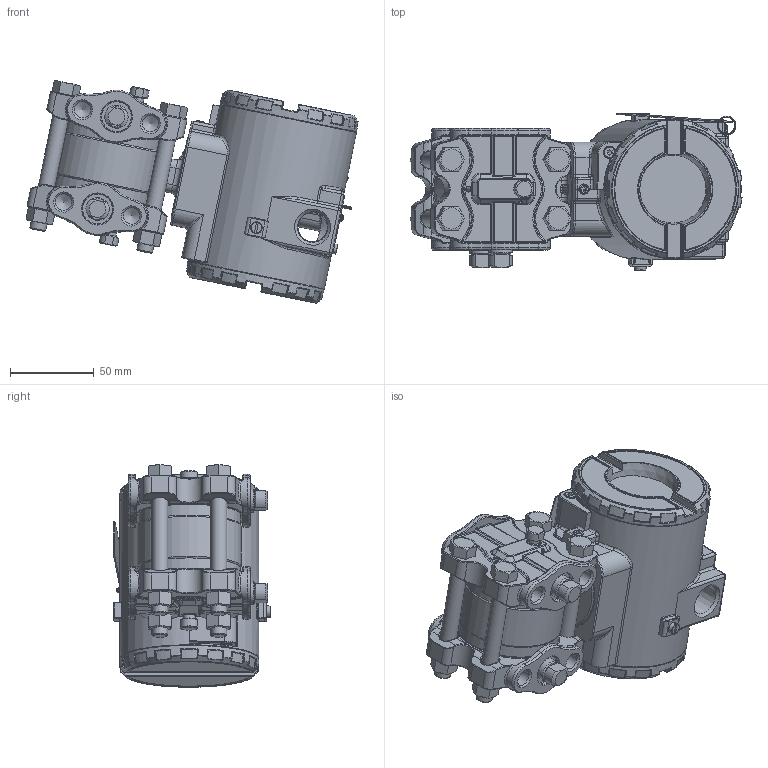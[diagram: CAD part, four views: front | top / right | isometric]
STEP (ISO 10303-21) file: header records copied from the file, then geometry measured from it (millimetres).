
FILE_DESCRIPTION(/* description */ (''),/* implementation_level */ '2;1');
FILE_NAME(/* name */ 'F:\Area\Desenvolvimento_2\Projects\Sensor\projetos\LD30X\montagens 3d - clientes\LD30XH5 1-4NPT purga acima.stp',/* time_stamp */ '2023-01-27T09:42:13-03:00',/* author */ ('inventor02'),/* organization */ (''),/* preprocessor_version */ 'ST-DEVELOPER v17',/* originating_system */ 'Autodesk Inventor 2019',/* authorisation */ '');
FILE_SCHEMA (('CONFIG_CONTROL_DESIGN'));
Length unit declared in the file: millimetre
Products named in the file (29): LD30XH5 1-4NPT purga acima; diferencial FX5 sem adaptador purga acima; involucro fx4 apos a usinagem final; Sangria; bujao 1-4NPT; flange diferencial std purga; Paraf. 3-8 x 16 UNC; Porca 3-8 x 16 UNC; carcaça vazia com tampas e plaqueta; carcaça LD inox sem letras; Subconjunto plaqueta 300; Plaqueta transmissor; Parafuso da Plaqueta; Rebite da Plaqueta; 096-A-0169-03; 101-A-0502-01; Chapa aterramento externo; ISO 1207 - M4 x 8; DIN 915 - M6 x 10; ANSI B18.3.1M - M4x0,7 x 8; Subconjunto tampa com visor aluminio; tampa pintada; VIDRO DO VISOR; oring 41x1 vidro tampa; Trava do vidro da tampa com visor; trava do vidro VH256; Subconjunto tampa sem visor-aluminio; tampa cega 300 pintada p0; 00034775-0
Assembly tree (39 placements, depth 4):
  LD30XH5 1-4NPT purga acima
    diferencial FX5 sem adaptador purga acima
      involucro fx4 apos a usinagem final
      flange diferencial std purga  x2
      bujao 1-4NPT  x2
      Sangria  x2
      Paraf. 3-8 x 16 UNC  x4
      Porca 3-8 x 16 UNC  x4
    carcaça vazia com tampas e plaqueta
      carcaça LD inox sem letras
      Subconjunto plaqueta 300
        Plaqueta transmissor
        Parafuso da Plaqueta
        Rebite da Plaqueta
        096-A-0169-03
        101-A-0502-01
      Chapa aterramento externo
      ISO 1207 - M4 x 8
      DIN 915 - M6 x 10
      ANSI B18.3.1M - M4x0,7 x 8  x2
      Subconjunto tampa com visor aluminio
        tampa pintada
        VIDRO DO VISOR
        oring 41x1 vidro tampa
        Trava do vidro da tampa com visor
        trava do vidro VH256
        00034775-0
      Subconjunto tampa sem visor-aluminio
        tampa cega 300 pintada p0
        00034775-0
Bounding box: 197.78 x 93.95 x 132.51 mm (x, y, z)
Volume: 587994 mm3; surface area: 231846.7 mm2
Topology: 34 solids, 34 shells, 2594 faces, 6213 edges, 3649 vertices
Faces by surface type: bspline 673, cylinder 631, plane 496, torus 436, cone 237, sphere 121
Full cylindrical faces by diameter (mm): 2 x4, 2.1 x2, 2.459 x5, 2.642 x1, 2.7 x1, 3 x5, 3.242 x4, 3.5 x4, 3.571 x1, 4 x4, 4.3 x1, 4.4 x1, 4.917 x1, 5.5 x6, 6 x2, 6.647 x2, 7 x6, 7.087 x2, 7.6 x2, 7.798 x4, 8 x2, 8.7 x2, 9.525 x4, 9.728 x8, 10.5 x8, 10.719 x4, 13.8 x2, 14 x1, 17.475 x2, 18.5 x4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
Entity records: 76397 total; most frequent: CARTESIAN_POINT 29123, ORIENTED_EDGE 9830, DIRECTION 9589, EDGE_CURVE 4915, AXIS2_PLACEMENT_3D 4212, VERTEX_POINT 2914, CIRCLE 2473, EDGE_LOOP 2181
